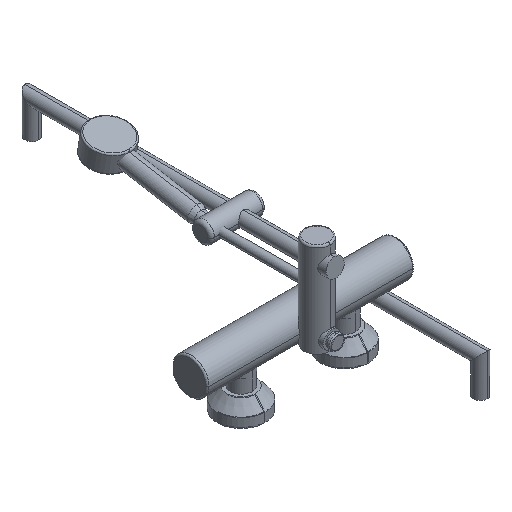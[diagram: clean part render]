
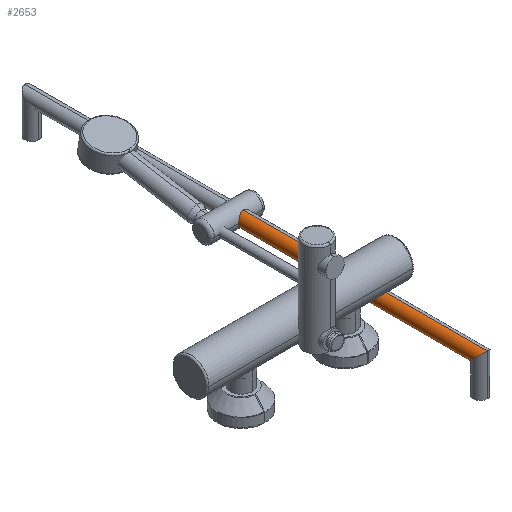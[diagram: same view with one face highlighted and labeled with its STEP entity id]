
A CAD part, isometric view. The second image highlights one B-rep face of the part: STEP entity #2653.
In plain terms, the highlighted cylindrical face has radius 10 mm (diameter 20 mm), a partial arc.
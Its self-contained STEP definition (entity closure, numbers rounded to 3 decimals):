
#29 = CARTESIAN_POINT ( 'NONE',  ( 213.345, 1253.513, -40.353 ) ) ;
#134 = EDGE_CURVE ( 'NONE', #3866, #2901, #2053, .T. ) ;
#145 = CARTESIAN_POINT ( 'NONE',  ( 212.395, 1253.256, -59.333 ) ) ;
#197 = CARTESIAN_POINT ( 'NONE',  ( 206.555, 1250.364, -46.698 ) ) ;
#204 = ORIENTED_EDGE ( 'NONE', *, *, #4259, .T. ) ;
#423 = CARTESIAN_POINT ( 'NONE',  ( 207.056, 1250.684, -45.479 ) ) ;
#512 = CARTESIAN_POINT ( 'NONE',  ( 206.07, 1250.047, -51.354 ) ) ;
#529 = CARTESIAN_POINT ( 'NONE',  ( 213.337, 1253.511, -59.645 ) ) ;
#615 = EDGE_CURVE ( 'NONE', #4927, #2485, #4884, .T. ) ;
#816 = CARTESIAN_POINT ( 'NONE',  ( 209.883, 1252.264, -42.063 ) ) ;
#874 = FACE_OUTER_BOUND ( 'NONE', #2851, .T. ) ;
#908 = CARTESIAN_POINT ( 'NONE',  ( 206.541, 1250.357, -53.311 ) ) ;
#923 = CARTESIAN_POINT ( 'NONE',  ( 214.31, 1253.697, -59.862 ) ) ;
#1189 = CARTESIAN_POINT ( 'NONE',  ( 212.711, 1253.35, -40.551 ) ) ;
#1273 = CARTESIAN_POINT ( 'NONE',  ( 207.367, 1250.878, -55.088 ) ) ;
#1275 = CARTESIAN_POINT ( 'NONE',  ( 206., 1250., -50. ) ) ;
#1292 = CARTESIAN_POINT ( 'NONE',  ( 215.314, 1253.804, -59.982 ) ) ;
#1363 = DIRECTION ( 'NONE',  ( 0., 1., 0. ) ) ;
#1473 = CARTESIAN_POINT ( 'NONE',  ( 216., 920., -60. ) ) ;
#1548 = CARTESIAN_POINT ( 'NONE',  ( 208.498, 1251.541, -43.358 ) ) ;
#1627 = CARTESIAN_POINT ( 'NONE',  ( 206.272, 1250.18, -47.662 ) ) ;
#1639 = CARTESIAN_POINT ( 'NONE',  ( 208.501, 1251.543, -56.646 ) ) ;
#1657 = CARTESIAN_POINT ( 'NONE',  ( 216., 1253.82, -60. ) ) ;
#1687 = CARTESIAN_POINT ( 'NONE',  ( 207.366, 1250.877, -44.915 ) ) ;
#1743 = ORIENTED_EDGE ( 'NONE', *, *, #615, .T. ) ;
#1871 = CARTESIAN_POINT ( 'NONE',  ( 208.084, 1251.304, -43.856 ) ) ;
#1903 = CARTESIAN_POINT ( 'NONE',  ( 216., 1253.82, -40. ) ) ;
#1919 = CARTESIAN_POINT ( 'NONE',  ( 206., 1250., -49.314 ) ) ;
#2017 = CARTESIAN_POINT ( 'NONE',  ( 209.894, 1252.27, -57.945 ) ) ;
#2053 = B_SPLINE_CURVE_WITH_KNOTS ( 'NONE', 3,
 ( #1903, #2669, #3068, #2291, #29, #1189, #3103, #4309, #3924, #3839, #4613, #816, #3480, #1548, #1871, #1687, #423, #3855, #197, #3211, #1627, #4204, #1919, #3614 ),
 .UNSPECIFIED., .F., .F.,
 ( 4, 2, 2, 2, 2, 2, 2, 2, 2, 2, 2, 4 ),
 ( 0., 0.002, 0.003, 0.004, 0.005, 0.006, 0.008, 0.01, 0.012, 0.013, 0.014, 0.016 ),
 .UNSPECIFIED. ) ;
#2096 = LINE ( 'NONE', #4704, #3022 ) ;
#2291 = CARTESIAN_POINT ( 'NONE',  ( 213.668, 1253.584, -40.27 ) ) ;
#2362 = EDGE_CURVE ( 'NONE', #4927, #3636, #2458, .T. ) ;
#2382 = CARTESIAN_POINT ( 'NONE',  ( 216., 1253.82, -40. ) ) ;
#2391 = CARTESIAN_POINT ( 'NONE',  ( 206., 1250., -50. ) ) ;
#2411 = CARTESIAN_POINT ( 'NONE',  ( 211.502, 1252.962, -58.955 ) ) ;
#2422 = DIRECTION ( 'NONE',  ( 0., 1., 0. ) ) ;
#2458 = LINE ( 'NONE', #2720, #4376 ) ;
#2485 = VERTEX_POINT ( 'NONE', #3930 ) ;
#2500 = EDGE_CURVE ( 'NONE', #2485, #3866, #2096, .T. ) ;
#2653 = ADVANCED_FACE ( 'NONE', ( #874 ), #3673, .T. ) ;
#2669 = CARTESIAN_POINT ( 'NONE',  ( 215.314, 1253.82, -40. ) ) ;
#2720 = CARTESIAN_POINT ( 'NONE',  ( 216., 1560., -60. ) ) ;
#2738 = B_SPLINE_CURVE_WITH_KNOTS ( 'NONE', 3,
 ( #2391, #4680, #512, #3188, #908, #3567, #1273, #3939, #1639, #4319, #2017, #4697, #2411, #145, #2798, #529, #3206, #923, #3583, #1292, #3951, #1657 ),
 .UNSPECIFIED., .F., .F.,
 ( 4, 2, 2, 2, 2, 2, 2, 2, 2, 2, 4 ),
 ( 0.016, 0.018, 0.02, 0.022, 0.024, 0.026, 0.028, 0.029, 0.03, 0.031, 0.032 ),
 .UNSPECIFIED. ) ;
#2798 = CARTESIAN_POINT ( 'NONE',  ( 212.704, 1253.348, -59.447 ) ) ;
#2851 = EDGE_LOOP ( 'NONE', ( #3400, #1743, #2906, #3341, #204 ) ) ;
#2880 = CARTESIAN_POINT ( 'NONE',  ( 216., 1560., -50. ) ) ;
#2901 = VERTEX_POINT ( 'NONE', #1275 ) ;
#2906 = ORIENTED_EDGE ( 'NONE', *, *, #2500, .T. ) ;
#3022 = VECTOR ( 'NONE', #2422, 1000. ) ;
#3068 = CARTESIAN_POINT ( 'NONE',  ( 214.646, 1253.756, -40.07 ) ) ;
#3103 = CARTESIAN_POINT ( 'NONE',  ( 212.404, 1253.259, -40.663 ) ) ;
#3188 = CARTESIAN_POINT ( 'NONE',  ( 206.338, 1250.224, -52.665 ) ) ;
#3206 = CARTESIAN_POINT ( 'NONE',  ( 213.658, 1253.581, -59.728 ) ) ;
#3211 = CARTESIAN_POINT ( 'NONE',  ( 206.355, 1250.235, -47.338 ) ) ;
#3219 = DIRECTION ( 'NONE',  ( 0., 0., 1. ) ) ;
#3254 = CARTESIAN_POINT ( 'NONE',  ( 196., 920., -60. ) ) ;
#3341 = ORIENTED_EDGE ( 'NONE', *, *, #134, .T. ) ;
#3400 = ORIENTED_EDGE ( 'NONE', *, *, #2362, .F. ) ;
#3480 = CARTESIAN_POINT ( 'NONE',  ( 209.396, 1252.02, -42.464 ) ) ;
#3505 = DIRECTION ( 'NONE',  ( 0., 1., 0. ) ) ;
#3567 = CARTESIAN_POINT ( 'NONE',  ( 207.055, 1250.683, -54.518 ) ) ;
#3583 = CARTESIAN_POINT ( 'NONE',  ( 214.641, 1253.742, -59.913 ) ) ;
#3614 = CARTESIAN_POINT ( 'NONE',  ( 206., 1250., -50. ) ) ;
#3636 = VERTEX_POINT ( 'NONE', #4113 ) ;
#3673 = CYLINDRICAL_SURFACE ( 'NONE', #4693, 10. ) ;
#3839 = CARTESIAN_POINT ( 'NONE',  ( 210.953, 1252.736, -41.361 ) ) ;
#3855 = CARTESIAN_POINT ( 'NONE',  ( 206.671, 1250.439, -46.384 ) ) ;
#3866 = VERTEX_POINT ( 'NONE', #2382 ) ;
#3924 = CARTESIAN_POINT ( 'NONE',  ( 211.517, 1252.957, -41.055 ) ) ;
#3930 = CARTESIAN_POINT ( 'NONE',  ( 216., 900., -40. ) ) ;
#3939 = CARTESIAN_POINT ( 'NONE',  ( 208.095, 1251.31, -56.158 ) ) ;
#3940 = CARTESIAN_POINT ( 'NONE',  ( 216., 900., -40. ) ) ;
#3951 = CARTESIAN_POINT ( 'NONE',  ( 215.657, 1253.82, -60. ) ) ;
#4113 = CARTESIAN_POINT ( 'NONE',  ( 216., 1253.82, -60. ) ) ;
#4204 = CARTESIAN_POINT ( 'NONE',  ( 206.07, 1250.047, -48.644 ) ) ;
#4259 = EDGE_CURVE ( 'NONE', #2901, #3636, #2738, .T. ) ;
#4309 = CARTESIAN_POINT ( 'NONE',  ( 211.807, 1253.063, -40.916 ) ) ;
#4319 = CARTESIAN_POINT ( 'NONE',  ( 209.398, 1252.022, -57.538 ) ) ;
#4376 = VECTOR ( 'NONE', #3505, 1000. ) ;
#4613 = CARTESIAN_POINT ( 'NONE',  ( 210.678, 1252.62, -41.528 ) ) ;
#4646 = CARTESIAN_POINT ( 'NONE',  ( 216., 920., -60. ) ) ;
#4680 = CARTESIAN_POINT ( 'NONE',  ( 206., 1250., -50.685 ) ) ;
#4693 = AXIS2_PLACEMENT_3D ( 'NONE', #2880, #1363, #3219 ) ;
#4697 = CARTESIAN_POINT ( 'NONE',  ( 210.945, 1252.739, -58.651 ) ) ;
#4704 = CARTESIAN_POINT ( 'NONE',  ( 216., 1560., -40. ) ) ;
#4768 = CARTESIAN_POINT ( 'NONE',  ( 196., 900., -40. ) ) ;
#4884 =( BOUNDED_CURVE ( )  B_SPLINE_CURVE ( 3, ( #4646, #3254, #4768, #3940 ),
 .UNSPECIFIED., .F., .T. ) 
 B_SPLINE_CURVE_WITH_KNOTS ( ( 4, 4 ),
 ( 0., 3.142 ),
 .UNSPECIFIED. ) 
 CURVE ( )  GEOMETRIC_REPRESENTATION_ITEM ( )  RATIONAL_B_SPLINE_CURVE ( ( 1., 0.333, 0.333, 1. ) ) 
 REPRESENTATION_ITEM ( '' )  );
#4927 = VERTEX_POINT ( 'NONE', #1473 ) ;
